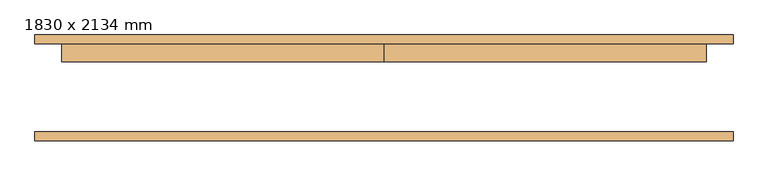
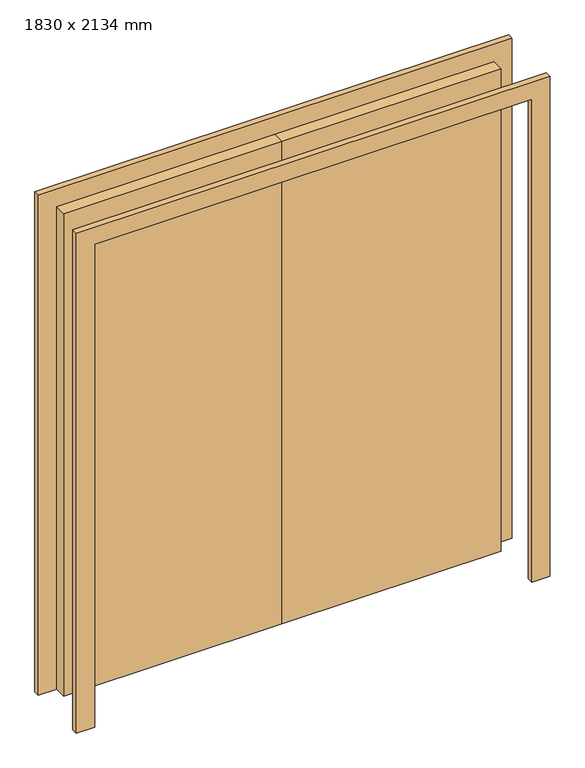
"""IFC4 building model written with IfcOpenShell, lengths in millimetres: door geometry, Descarga dupla : 1830 x 2134 mm."""

from ifc_helpers import new_model, si_unit, frame, origin, origin_with_axes, place, context, project, spatial, polyline, outline, extrude, source, transform, mapped, element, save


def door_1830_x_2134_mm_660d1098(model_context):
    return source(origin(), model_context, "Body", "SweptSolid", [
        extrude(outline(polyline([(0.0, 125.0), (915.0, 125.0), (915.0, 74.0), (0.0, 74.0), (0.0, 125.0)])), origin_with_axes(), (0.0, 0.0, 1.0), 2134.0),
        extrude(outline(polyline([(-915.0, 125.0), (0.0, 125.0), (0.0, 74.0), (-915.0, 74.0), (-915.0, 125.0)])), origin_with_axes(), (0.0, 0.0, 1.0), 2134.0),
        extrude(outline(polyline([(2134.0, -915.0), (2134.0, 915.0), (0.0, 915.0), (0.0, 991.0), (2210.0, 991.0), (2210.0, -991.0), (0.0, -991.0), (0.0, -915.0), (2134.0, -915.0)])), frame((0.0, -150.0, 0.0), z_axis=(0.0, 1.0, 0.0), x_axis=(0.0, 0.0, 1.0)), (0.0, 0.0, 1.0), 25.0),
        extrude(outline(polyline([(2134.0, -915.0), (2134.0, 915.0), (0.0, 915.0), (0.0, 991.0), (2210.0, 991.0), (2210.0, -991.0), (0.0, -991.0), (0.0, -915.0), (2134.0, -915.0)])), frame((0.0, 125.0, 0.0), z_axis=(0.0, 1.0, 0.0), x_axis=(0.0, 0.0, 1.0)), (0.0, 0.0, 1.0), 25.0),
    ])


if __name__ == "__main__":
    model = new_model("IFC4")
    model_context = context("Model", 3, world=origin())
    ifc_project = project(units=[si_unit("LENGTHUNIT", "METRE", prefix="MILLI")], contexts=[model_context])
    site = spatial("IfcSite", under=ifc_project)
    building = spatial("IfcBuilding", under=site)
    placement = place(None, origin())
    door_1830_x_2134_mm_shape = door_1830_x_2134_mm_660d1098(model_context)
    element("IfcDoor", 1, ObjectType="Descarga dupla : 1830 x 2134 mm", at=placement, inside=building, context=model_context, shape_type="MappedRepresentation", body=[
        mapped(door_1830_x_2134_mm_shape, transform((0.0, 0.0, 0.0), x_axis=(1.0, 0.0, 0.0), y_axis=(0.0, 1.0, 0.0), z_axis=(0.0, 0.0, 1.0))),
    ])
    save(model, "model.ifc")
